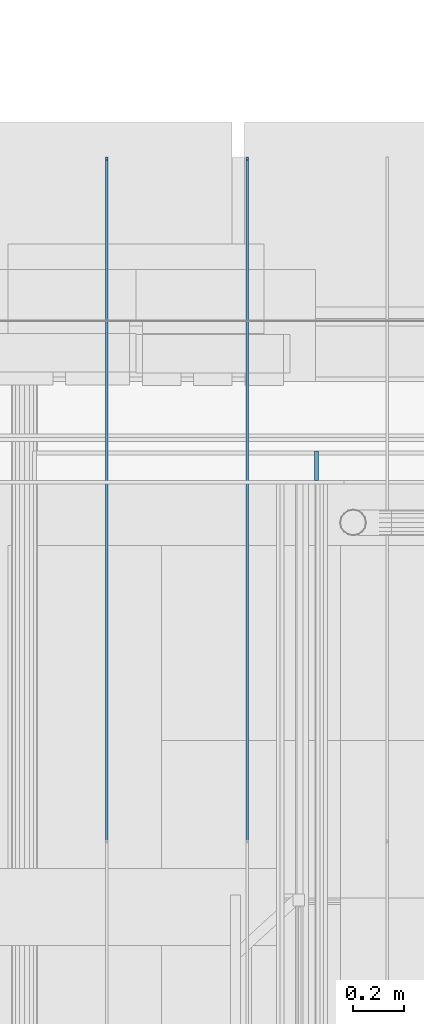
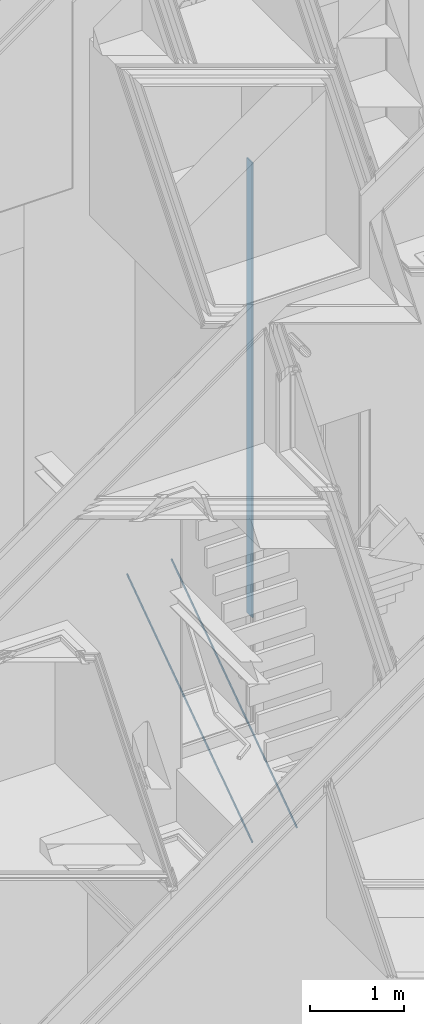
# One storey, part 289 of 583: 3 slabs.
"""IFC2X3 building model written with IfcOpenShell, lengths in metres."""

from ifc_helpers import new_model, entity, si_unit, converted_unit, derived_unit, money_unit, direction, frame, origin_with_axes, place, context, subcontext, project, spatial, faceted_brep, material, type_object, element, save


model = new_model("IFC2X3")

# Units and contexts
model_context = context("Model", 3, precision=1e-05, world=origin_with_axes(), true_north=direction((0.0, 1.0)))
body_context = subcontext(model_context, "Body", "Model", "MODEL_VIEW", scale=1.0)
ifc_project = project(units=[si_unit("LENGTHUNIT", "METRE"), si_unit("AREAUNIT", "SQUARE_METRE"), si_unit("VOLUMEUNIT", "CUBIC_METRE"), si_unit("ABSORBEDDOSEUNIT", "GRAY"), si_unit("AMOUNTOFSUBSTANCEUNIT", "MOLE"), si_unit("DOSEEQUIVALENTUNIT", "SIEVERT"), si_unit("ELECTRICCAPACITANCEUNIT", "FARAD"), si_unit("ELECTRICCHARGEUNIT", "COULOMB"), si_unit("ELECTRICCONDUCTANCEUNIT", "SIEMENS"), si_unit("ELECTRICCURRENTUNIT", "AMPERE"), si_unit("ELECTRICRESISTANCEUNIT", "OHM"), si_unit("ELECTRICVOLTAGEUNIT", "VOLT"), si_unit("ENERGYUNIT", "JOULE"), si_unit("FORCEUNIT", "NEWTON"), si_unit("FREQUENCYUNIT", "HERTZ"), si_unit("ILLUMINANCEUNIT", "LUX"), si_unit("INDUCTANCEUNIT", "HENRY"), si_unit("LUMINOUSFLUXUNIT", "LUMEN"), si_unit("LUMINOUSINTENSITYUNIT", "CANDELA"), si_unit("MAGNETICFLUXDENSITYUNIT", "TESLA"), si_unit("MAGNETICFLUXUNIT", "WEBER"), si_unit("MASSUNIT", "GRAM"), converted_unit("PLANEANGLEUNIT", "degree", entity("IfcReal", 0.0174532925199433), si_unit("PLANEANGLEUNIT", "RADIAN"), dimensions=[0, 0, 0, 0, 0, 0, 0]), si_unit("POWERUNIT", "WATT"), si_unit("PRESSUREUNIT", "PASCAL"), si_unit("RADIOACTIVITYUNIT", "BECQUEREL"), si_unit("SOLIDANGLEUNIT", "STERADIAN"), si_unit("THERMODYNAMICTEMPERATUREUNIT", "KELVIN"), si_unit("TIMEUNIT", "SECOND"), derived_unit("ACCELERATIONUNIT", [(si_unit("LENGTHUNIT", "METRE"), 1), (si_unit("TIMEUNIT", "SECOND"), -2)]), derived_unit("ANGULARVELOCITYUNIT", [(converted_unit("PLANEANGLEUNIT", "degree", entity("IfcReal", 0.0174532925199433), si_unit("PLANEANGLEUNIT", "RADIAN"), dimensions=[0, 0, 0, 0, 0, 0, 0]), 1), (si_unit("TIMEUNIT", "SECOND"), -1)]), derived_unit("CURVATUREUNIT", [(converted_unit("PLANEANGLEUNIT", "degree", entity("IfcReal", 0.0174532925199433), si_unit("PLANEANGLEUNIT", "RADIAN"), dimensions=[0, 0, 0, 0, 0, 0, 0]), 1), (si_unit("LENGTHUNIT", "METRE"), -1)]), derived_unit("DYNAMICVISCOSITYUNIT", [(si_unit("PRESSUREUNIT", "PASCAL"), 1), (si_unit("TIMEUNIT", "SECOND"), 1)]), derived_unit("HEATFLUXDENSITYUNIT", [(si_unit("POWERUNIT", "WATT"), 1), (si_unit("LENGTHUNIT", "METRE"), -2)]), derived_unit("HEATINGVALUEUNIT", [(si_unit("ENERGYUNIT", "JOULE"), 1), (si_unit("MASSUNIT", "GRAM"), -1)]), derived_unit("INTEGERCOUNTRATEUNIT", [(si_unit("TIMEUNIT", "SECOND"), -1)]), derived_unit("IONCONCENTRATIONUNIT", [(si_unit("MASSUNIT", "GRAM"), 1), (si_unit("VOLUMEUNIT", "CUBIC_METRE"), -1)]), derived_unit("ISOTHERMALMOISTURECAPACITYUNIT", [(si_unit("VOLUMEUNIT", "CUBIC_METRE"), 1), (si_unit("MASSUNIT", "GRAM"), -1)]), derived_unit("KINEMATICVISCOSITYUNIT", [(si_unit("AREAUNIT", "SQUARE_METRE"), 1), (si_unit("TIMEUNIT", "SECOND"), -1)]), derived_unit("LINEARFORCEUNIT", [(si_unit("FORCEUNIT", "NEWTON"), 1), (si_unit("LENGTHUNIT", "METRE"), -1)]), derived_unit("LINEARMOMENTUNIT", [(si_unit("FORCEUNIT", "NEWTON"), 1), (si_unit("LENGTHUNIT", "METRE"), -1)]), derived_unit("LINEARSTIFFNESSUNIT", [(si_unit("FORCEUNIT", "NEWTON"), 1), (si_unit("LENGTHUNIT", "METRE"), -1)]), derived_unit("LINEARVELOCITYUNIT", [(si_unit("LENGTHUNIT", "METRE"), 1), (si_unit("TIMEUNIT", "SECOND"), -1)]), derived_unit("LUMINOUSINTENSITYDISTRIBUTIONUNIT", [(si_unit("LUMINOUSINTENSITYUNIT", "CANDELA"), 1), (si_unit("LUMINOUSFLUXUNIT", "LUMEN"), -1)]), derived_unit("MASSDENSITYUNIT", [(si_unit("MASSUNIT", "GRAM"), 1), (si_unit("VOLUMEUNIT", "CUBIC_METRE"), -1)]), derived_unit("MASSFLOWRATEUNIT", [(si_unit("MASSUNIT", "GRAM"), 1), (si_unit("TIMEUNIT", "SECOND"), -1)]), derived_unit("MASSPERLENGTHUNIT", [(si_unit("MASSUNIT", "GRAM"), 1), (si_unit("LENGTHUNIT", "METRE"), -1)]), derived_unit("MODULUSOFELASTICITYUNIT", [(si_unit("FORCEUNIT", "NEWTON"), 1), (si_unit("AREAUNIT", "SQUARE_METRE"), -1)]), derived_unit("MODULUSOFLINEARSUBGRADEREACTIONUNIT", [(si_unit("FORCEUNIT", "NEWTON"), 1), (si_unit("LENGTHUNIT", "METRE"), -2)]), derived_unit("MODULUSOFROTATIONALSUBGRADEREACTIONUNIT", [(si_unit("FORCEUNIT", "NEWTON"), 1), (si_unit("LENGTHUNIT", "METRE"), 1)]), derived_unit("MODULUSOFSUBGRADEREACTIONUNIT", [(si_unit("FORCEUNIT", "NEWTON"), 1), (si_unit("VOLUMEUNIT", "CUBIC_METRE"), -1)]), derived_unit("MOISTUREDIFFUSIVITYUNIT", [(si_unit("VOLUMEUNIT", "CUBIC_METRE"), 1), (si_unit("TIMEUNIT", "SECOND"), -1)]), derived_unit("MOLECULARWEIGHTUNIT", [(si_unit("MASSUNIT", "GRAM"), 1), (si_unit("AMOUNTOFSUBSTANCEUNIT", "MOLE"), -1)]), derived_unit("PLANARFORCEUNIT", [(si_unit("FORCEUNIT", "NEWTON"), 1), (si_unit("LENGTHUNIT", "METRE"), -2)]), derived_unit("ROTATIONALFREQUENCYUNIT", [(si_unit("TIMEUNIT", "SECOND"), -1)]), derived_unit("ROTATIONALMASSUNIT", [(si_unit("MASSUNIT", "GRAM"), 1), (si_unit("LENGTHUNIT", "METRE"), 2)]), derived_unit("ROTATIONALSTIFFNESSUNIT", [(si_unit("FORCEUNIT", "NEWTON"), 1), (si_unit("LENGTHUNIT", "METRE"), 1), (converted_unit("PLANEANGLEUNIT", "degree", entity("IfcReal", 0.0174532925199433), si_unit("PLANEANGLEUNIT", "RADIAN"), dimensions=[0, 0, 0, 0, 0, 0, 0]), -1)]), derived_unit("SECTIONAREAINTEGRALUNIT", [(si_unit("LENGTHUNIT", "METRE"), 5)]), derived_unit("SECTIONMODULUSUNIT", [(si_unit("LENGTHUNIT", "METRE"), 3)]), derived_unit("SHEARMODULUSUNIT", [(si_unit("FORCEUNIT", "NEWTON"), 1), (si_unit("AREAUNIT", "SQUARE_METRE"), -1)]), derived_unit("SOUNDPOWERUNIT", [(si_unit("ENERGYUNIT", "JOULE"), 1), (si_unit("TIMEUNIT", "SECOND"), -1)]), derived_unit("SPECIFICHEATCAPACITYUNIT", [(si_unit("FORCEUNIT", "NEWTON"), 1), (si_unit("MASSUNIT", "GRAM"), -1), (si_unit("THERMODYNAMICTEMPERATUREUNIT", "KELVIN"), -1)]), derived_unit("TEMPERATUREGRADIENTUNIT", [(si_unit("THERMODYNAMICTEMPERATUREUNIT", "KELVIN"), 1), (si_unit("LENGTHUNIT", "METRE"), -1)]), derived_unit("THERMALADMITTANCEUNIT", [(si_unit("POWERUNIT", "WATT"), 1), (si_unit("AREAUNIT", "SQUARE_METRE"), -1), (si_unit("THERMODYNAMICTEMPERATUREUNIT", "KELVIN"), -1)]), derived_unit("THERMALCONDUCTANCEUNIT", [(si_unit("POWERUNIT", "WATT"), 1), (si_unit("LENGTHUNIT", "METRE"), -1), (si_unit("THERMODYNAMICTEMPERATUREUNIT", "KELVIN"), -1)]), derived_unit("THERMALEXPANSIONCOEFFICIENTUNIT", [(si_unit("THERMODYNAMICTEMPERATUREUNIT", "KELVIN"), -1)]), derived_unit("THERMALRESISTANCEUNIT", [(si_unit("AREAUNIT", "SQUARE_METRE"), 1), (si_unit("POWERUNIT", "WATT"), -1)]), derived_unit("THERMALTRANSMITTANCEUNIT", [(si_unit("POWERUNIT", "WATT"), 1), (si_unit("AREAUNIT", "SQUARE_METRE"), -1), (si_unit("THERMODYNAMICTEMPERATUREUNIT", "KELVIN"), -1)]), derived_unit("TORQUEUNIT", [(si_unit("FORCEUNIT", "NEWTON"), 1), (si_unit("LENGTHUNIT", "METRE"), 1)]), derived_unit("VAPORPERMEABILITYUNIT", [(si_unit("MASSUNIT", "GRAM"), 1), (si_unit("TIMEUNIT", "SECOND"), -1)]), derived_unit("VOLUMETRICFLOWRATEUNIT", [(si_unit("VOLUMEUNIT", "CUBIC_METRE"), 1), (si_unit("TIMEUNIT", "SECOND"), -1)]), derived_unit("WARPINGCONSTANTUNIT", [(si_unit("LENGTHUNIT", "METRE"), 6)]), derived_unit("WARPINGMOMENTUNIT", [(si_unit("FORCEUNIT", "NEWTON"), 1), (si_unit("LENGTHUNIT", "METRE"), 2)]), money_unit("GBP")], contexts=[model_context])

# Site, building, storey
site_placement = place(None, origin_with_axes())
site = spatial("IfcSite", under=ifc_project, at=site_placement, Name="Site", CompositionType="ELEMENT")
building_placement = place(site_placement, origin_with_axes())
building = spatial("IfcBuilding", under=site, at=building_placement, Name="Building01", CompositionType="ELEMENT")
storey_placement = place(building_placement, frame((0.0, 0.0, 20.78), z_axis=(0.0, 0.0, 1.0), x_axis=(1.0, 0.0, 0.0)))
storey = spatial("IfcBuildingStorey", under=building, at=storey_placement, Name="RL", CompositionType="ELEMENT", Elevation=20.78)

# Slabs
ifc_material_1 = material(Name="A_BSUK_CeilingSoffitFinishes_Suspended")
slab_type = type_object("IfcSlabType", Name="A-FloorsSlabs A_BSUK_Slabs", PredefinedType="FLOOR")
slab_placement = place(storey_placement, frame((0.0, 0.0, -20.78), z_axis=(0.0, 0.0, 1.0), x_axis=(1.0, 0.0, 0.0)))
element("IfcSlab", 1, at=slab_placement, inside=storey, type_object=slab_type, material=ifc_material_1, Name="A-FloorsSlabs A_BSUK_Slabs", ObjectType="CompoundSlabLeaf", context=body_context, shape_type="Brep", body=[
    faceted_brep([(8.7966, 20.195, 9.0), (8.8116, 20.195, 9.0), (8.8116, 20.31, 9.0), (8.7966, 20.31, 9.0), (8.7966, 20.195, 3.1), (8.8116, 20.195, 3.1), (8.7966, 20.31, 3.1), (8.8116, 20.31, 3.1)], [[[0, 1, 2, 3]], [[4, 5, 1, 0]], [[6, 7, 5, 4]], [[3, 2, 7, 6]], [[1, 5, 7, 2]], [[3, 6, 4, 0]]]),
])
ifc_material_2 = material(Name="A_BSUK_Roofs")
for number, where, z_axis, x_axis, name in (
    (2, (7.990953, 18.780461, -19.44574), (0.0, 1.0, 0.0), (0.0, 0.0, 1.0), "A-FloorsSlabs A_BSUK_Slabs"),
    (3, (8.538453, 18.780461, -19.44574), (0.0, 1.0, 0.0), (0.0, 0.0, 1.0), "A-FloorsSlabs A_BSUK_Slabs"),
):
    element("IfcSlab", number, at=place(storey_placement, frame(where, z_axis=z_axis, x_axis=x_axis)), inside=storey, type_object=slab_type, material=ifc_material_2, Name=name, ObjectType="A-FloorsSlabs A_BSUK_Slabs", context=body_context, shape_type="Brep", body=[
        faceted_brep([(0.0, 0.0, 0.0), (-0.016383, 0.0, 0.011472), (1.849297, 0.0, 2.675938), (1.86568, 0.0, 2.664467), (1.849297, -0.01, 2.675938), (1.86568, -0.01, 2.664467), (-0.016383, -0.01, 0.011472), (0.0, -0.01, 0.0)], [[[0, 1, 2, 3]], [[3, 2, 4, 5]], [[5, 4, 6, 7]], [[7, 6, 1, 0]], [[1, 6, 4, 2]], [[3, 5, 7, 0]]]),
    ])

save(model, "model.ifc")
